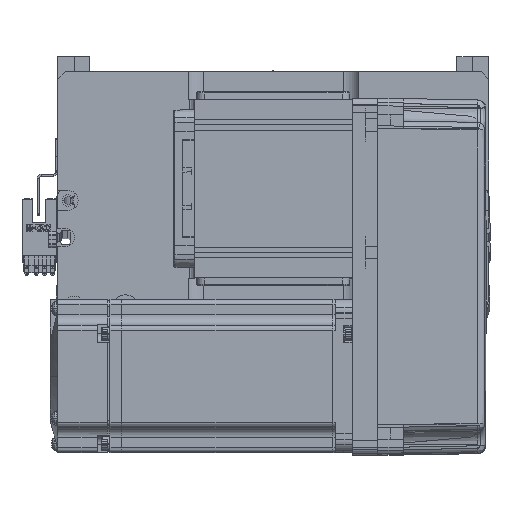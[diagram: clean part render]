
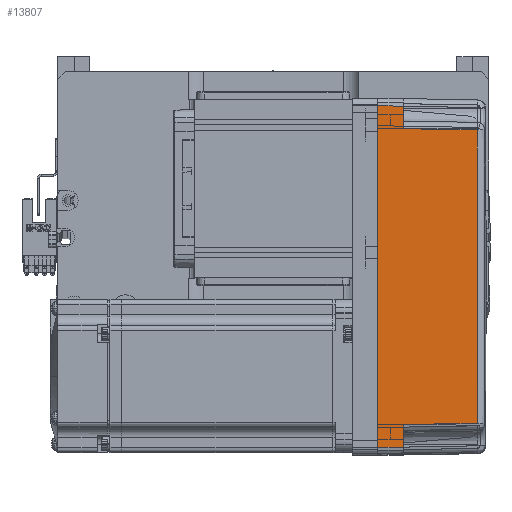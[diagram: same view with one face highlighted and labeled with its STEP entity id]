
A CAD part, top view. The second image highlights one B-rep face of the part: STEP entity #13807.
In plain terms, the highlighted planar face has unit normal (0.018, 0, 1) as drawn and (0, 1, 0.017) by its records, which use the part's own axes.
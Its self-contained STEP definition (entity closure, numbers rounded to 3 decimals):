
#1490 = ORIENTED_EDGE ( 'NONE', *, *, #43116, .T. ) ;
#1868 = VERTEX_POINT ( 'NONE', #46106 ) ;
#1900 = CARTESIAN_POINT ( 'NONE',  ( 70., 35.825, 10. ) ) ;
#2262 = LINE ( 'NONE', #27352, #55012 ) ;
#2737 = ORIENTED_EDGE ( 'NONE', *, *, #49852, .T. ) ;
#2807 = CARTESIAN_POINT ( 'NONE',  ( -19.165, 35.316, 39.181 ) ) ;
#3818 = DIRECTION ( 'NONE',  ( 0., -0.017, 1. ) ) ;
#6519 = ORIENTED_EDGE ( 'NONE', *, *, #53162, .T. ) ;
#9191 = DIRECTION ( 'NONE',  ( 0., 1., 0.017 ) ) ;
#12129 = VERTEX_POINT ( 'NONE', #59167 ) ;
#13543 = VERTEX_POINT ( 'NONE', #42147 ) ;
#13548 = VECTOR ( 'NONE', #38211, 1000. ) ;
#13807 = ADVANCED_FACE ( 'NONE', ( #38804 ), #29311, .T. ) ;
#13944 = CARTESIAN_POINT ( 'NONE',  ( 0., 36., 0. ) ) ;
#15542 = EDGE_LOOP ( 'NONE', ( #6519, #1490, #20861, #64231, #63541, #2737, #37399, #52270 ) ) ;
#16595 = VERTEX_POINT ( 'NONE', #54221 ) ;
#18148 = DIRECTION ( 'NONE',  ( 1., 0., 0. ) ) ;
#18654 = CARTESIAN_POINT ( 'NONE',  ( 70., 35.825, 10. ) ) ;
#19604 = EDGE_CURVE ( 'NONE', #16595, #13543, #47213, .T. ) ;
#20861 = ORIENTED_EDGE ( 'NONE', *, *, #19604, .T. ) ;
#21624 = EDGE_CURVE ( 'NONE', #63017, #37787, #50734, .T. ) ;
#21861 = CARTESIAN_POINT ( 'NONE',  ( 57.495, 35.32, 38.985 ) ) ;
#22569 = CARTESIAN_POINT ( 'NONE',  ( -58., 35.825, 10. ) ) ;
#23956 = LINE ( 'NONE', #18654, #34394 ) ;
#27092 = CARTESIAN_POINT ( 'NONE',  ( 67., 36., 0. ) ) ;
#27107 = CARTESIAN_POINT ( 'NONE',  ( 58., 35.825, 10. ) ) ;
#27352 = CARTESIAN_POINT ( 'NONE',  ( 67.001, 36.001, -0.052 ) ) ;
#29311 = PLANE ( 'NONE',  #62309 ) ;
#31623 = CARTESIAN_POINT ( 'NONE',  ( -67., 36., 0. ) ) ;
#32809 = CARTESIAN_POINT ( 'NONE',  ( 19.165, 35.316, 39.181 ) ) ;
#33679 = DIRECTION ( 'NONE',  ( 1., 0., 0. ) ) ;
#34394 = VECTOR ( 'NONE', #33679, 1000. ) ;
#34456 = CARTESIAN_POINT ( 'NONE',  ( 70., 36., 0. ) ) ;
#35504 = EDGE_CURVE ( 'NONE', #42050, #56004, #60416, .T. ) ;
#36330 = DIRECTION ( 'NONE',  ( 0.017, -0.017, 1. ) ) ;
#37093 = VECTOR ( 'NONE', #36330, 1000. ) ;
#37399 = ORIENTED_EDGE ( 'NONE', *, *, #47811, .F. ) ;
#37787 = VERTEX_POINT ( 'NONE', #27092 ) ;
#38211 = DIRECTION ( 'NONE',  ( 0.017, -0.017, 1. ) ) ;
#38804 = FACE_OUTER_BOUND ( 'NONE', #15542, .T. ) ;
#38852 = B_SPLINE_CURVE_WITH_KNOTS ( 'NONE', 3,
 ( #49065, #2807, #32809, #43032 ),
 .UNSPECIFIED., .F., .F.,
 ( 4, 4 ),
 ( 0., 1. ),
 .UNSPECIFIED. ) ;
#41288 = VECTOR ( 'NONE', #52435, 1000. ) ;
#42050 = VERTEX_POINT ( 'NONE', #21861 ) ;
#42147 = CARTESIAN_POINT ( 'NONE',  ( -57.495, 35.32, 38.985 ) ) ;
#43032 = CARTESIAN_POINT ( 'NONE',  ( 57.495, 35.32, 38.985 ) ) ;
#43116 = EDGE_CURVE ( 'NONE', #1868, #16595, #45145, .T. ) ;
#44316 = VECTOR ( 'NONE', #54825, 1000. ) ;
#45145 = LINE ( 'NONE', #1900, #45921 ) ;
#45921 = VECTOR ( 'NONE', #18148, 1000. ) ;
#46106 = CARTESIAN_POINT ( 'NONE',  ( -66.826, 35.825, 10. ) ) ;
#47213 = LINE ( 'NONE', #22569, #13548 ) ;
#47680 = DIRECTION ( 'NONE',  ( -0.017, -0.017, 1. ) ) ;
#47811 = EDGE_CURVE ( 'NONE', #37787, #12129, #2262, .T. ) ;
#48231 = EDGE_CURVE ( 'NONE', #13543, #42050, #38852, .T. ) ;
#49065 = CARTESIAN_POINT ( 'NONE',  ( -57.495, 35.32, 38.985 ) ) ;
#49852 = EDGE_CURVE ( 'NONE', #56004, #12129, #23956, .T. ) ;
#50734 = LINE ( 'NONE', #13944, #44316 ) ;
#52270 = ORIENTED_EDGE ( 'NONE', *, *, #21624, .F. ) ;
#52435 = DIRECTION ( 'NONE',  ( 0.017, 0.017, -1. ) ) ;
#53162 = EDGE_CURVE ( 'NONE', #63017, #1868, #63388, .T. ) ;
#54221 = CARTESIAN_POINT ( 'NONE',  ( -58., 35.825, 10. ) ) ;
#54825 = DIRECTION ( 'NONE',  ( 1., 0., 0. ) ) ;
#55012 = VECTOR ( 'NONE', #47680, 1000. ) ;
#56004 = VERTEX_POINT ( 'NONE', #27107 ) ;
#59167 = CARTESIAN_POINT ( 'NONE',  ( 66.826, 35.825, 10. ) ) ;
#60416 = LINE ( 'NONE', #62191, #41288 ) ;
#60839 = CARTESIAN_POINT ( 'NONE',  ( -67., 36., 0. ) ) ;
#62191 = CARTESIAN_POINT ( 'NONE',  ( 57.495, 35.32, 38.985 ) ) ;
#62309 = AXIS2_PLACEMENT_3D ( 'NONE', #34456, #9191, #3818 ) ;
#63017 = VERTEX_POINT ( 'NONE', #31623 ) ;
#63388 = LINE ( 'NONE', #60839, #37093 ) ;
#63541 = ORIENTED_EDGE ( 'NONE', *, *, #35504, .T. ) ;
#64231 = ORIENTED_EDGE ( 'NONE', *, *, #48231, .T. ) ;
